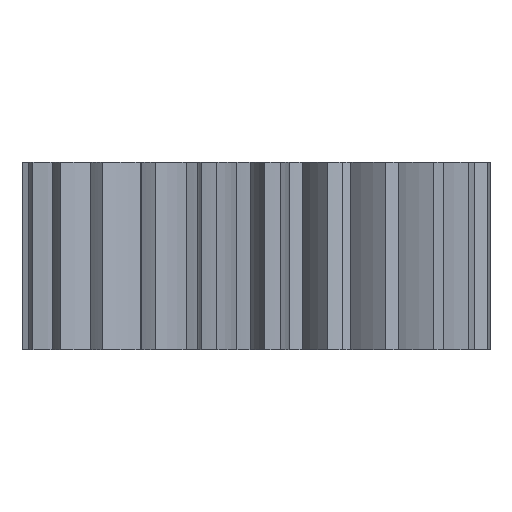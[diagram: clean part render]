
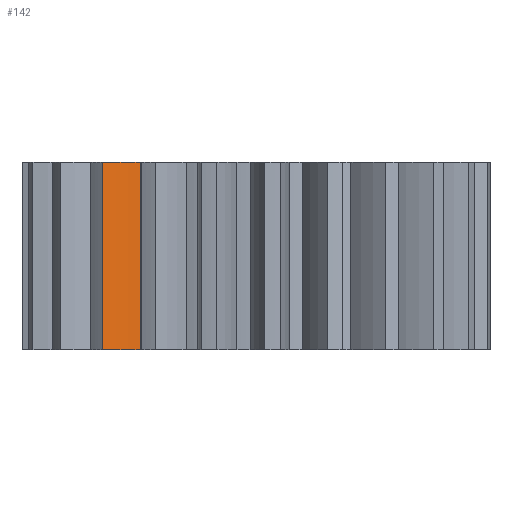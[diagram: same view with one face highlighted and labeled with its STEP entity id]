
A CAD part, left-side view. The second image highlights one B-rep face of the part: STEP entity #142.
In plain terms, the highlighted cylindrical face has radius 17.771 mm (diameter 35.542 mm), a partial arc.
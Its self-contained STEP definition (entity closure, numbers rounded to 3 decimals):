
#142=ADVANCED_FACE('',(#779),#781,.T.);
#779=FACE_BOUND('',#780,.T.);
#780=EDGE_LOOP('',(#1369,#1370,#1371,#1372));
#781=CYLINDRICAL_SURFACE('',#782,17.771);
#782=AXIS2_PLACEMENT_3D('',#783,#784,#785);
#783=CARTESIAN_POINT('',(-2.624,23.692,0.));
#784=DIRECTION('',(0.,0.,1.));
#785=DIRECTION('',(-0.772,-0.636,0.));
#1369=ORIENTED_EDGE('',*,*,#1508,.F.);
#1370=ORIENTED_EDGE('',*,*,#1677,.F.);
#1371=ORIENTED_EDGE('',*,*,#1492,.F.);
#1372=ORIENTED_EDGE('',*,*,#1676,.T.);
#1492=EDGE_CURVE('',#1863,#1865,#1866,.T.);
#1508=EDGE_CURVE('',#1895,#1897,#1898,.T.);
#1676=EDGE_CURVE('',#1863,#1897,#2148,.T.);
#1677=EDGE_CURVE('',#1865,#1895,#2149,.T.);
#1863=VERTEX_POINT('',#2601);
#1865=VERTEX_POINT('',#2606);
#1866=CIRCLE('',#2607,17.771);
#1895=VERTEX_POINT('',#2681);
#1897=VERTEX_POINT('',#2686);
#1898=CIRCLE('',#2687,17.771);
#2148=LINE('',#3357,#3358);
#2149=LINE('',#3360,#3361);
#2601=CARTESIAN_POINT('',(-16.335,12.387,0.));
#2606=CARTESIAN_POINT('',(-18.843,16.43,0.));
#2607=AXIS2_PLACEMENT_3D('',#2608,#2609,#2610);
#2608=CARTESIAN_POINT('',(-2.624,23.692,0.));
#2609=DIRECTION('',(0.,0.,-1.));
#2610=DIRECTION('',(-0.772,-0.636,0.));
#2681=CARTESIAN_POINT('',(-18.843,16.43,20.));
#2686=CARTESIAN_POINT('',(-16.335,12.387,20.));
#2687=AXIS2_PLACEMENT_3D('',#2688,#2689,#2690);
#2688=CARTESIAN_POINT('',(-2.624,23.692,20.));
#2689=DIRECTION('',(0.,0.,1.));
#2690=DIRECTION('',(-0.913,-0.409,0.));
#3357=CARTESIAN_POINT('',(-16.335,12.387,0.));
#3358=VECTOR('',#3359,1.);
#3359=DIRECTION('',(0.,0.,1.));
#3360=CARTESIAN_POINT('',(-18.843,16.43,0.));
#3361=VECTOR('',#3362,1.);
#3362=DIRECTION('',(0.,0.,1.));
